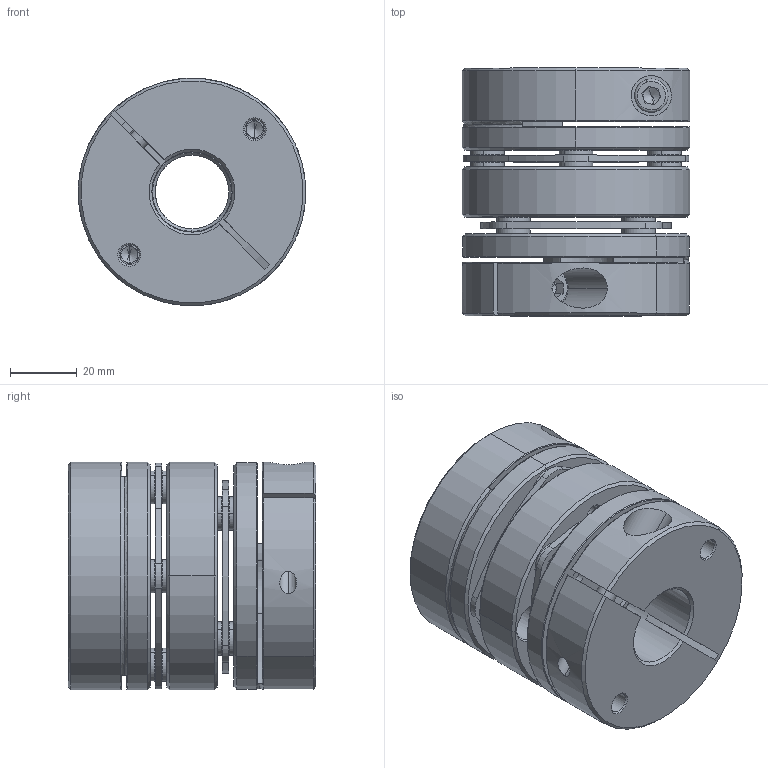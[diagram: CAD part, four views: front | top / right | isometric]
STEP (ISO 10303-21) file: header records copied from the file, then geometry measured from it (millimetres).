
FILE_DESCRIPTION (( 'STEP AP203' ), '1' );
FILE_NAME ('LD2-D68-22-24.STEP', '2021-10-26T08:37:57', ( '' ), ( '' ), 'SwSTEP 2.0', 'SolidWorks 2018', '' );
FILE_SCHEMA (( 'CONFIG_CONTROL_DESIGN' ));
Length unit declared in the file: millimetre
Products named in the file (2): 錨璃102^LD2-D68; LD2-D68-22-24
Assembly tree (1 placements, depth 2):
  LD2-D68-22-24
    錨璃102^LD2-D68
Bounding box: 68 x 74 x 68 mm (x, y, z)
Volume: 185119.7 mm3; surface area: 64272.7 mm2
Topology: 1 solids, 27 shells, 732 faces, 1696 edges, 1032 vertices
Faces by surface type: cylinder 256, cone 226, plane 220, torus 30
Entity records: 21398 total; most frequent: DIRECTION 3974, CARTESIAN_POINT 3912, ORIENTED_EDGE 3344, EDGE_CURVE 1672, AXIS2_PLACEMENT_3D 1614, VERTEX_POINT 1032, CIRCLE 878, EDGE_LOOP 868
